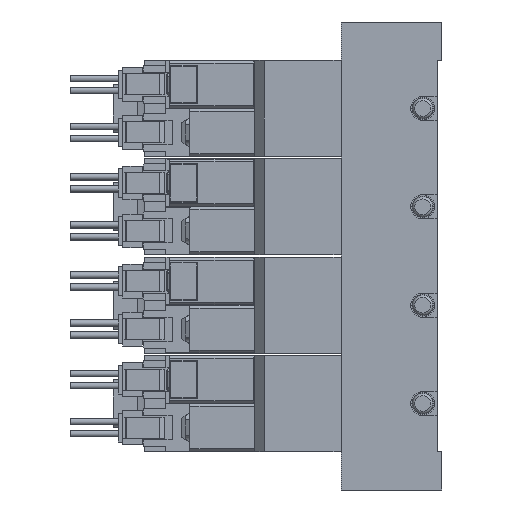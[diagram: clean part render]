
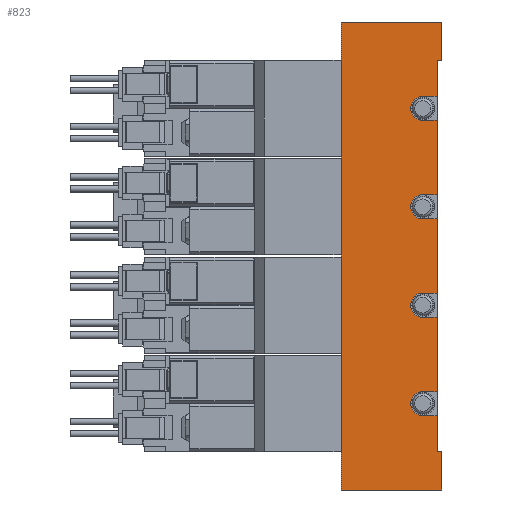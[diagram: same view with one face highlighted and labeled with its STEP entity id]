
A CAD part, left-side view. The second image highlights one B-rep face of the part: STEP entity #823.
In plain terms, the highlighted planar face has unit normal (-1, 0, 0) as drawn and (1, 0, 0) by its records, which use the part's own axes.
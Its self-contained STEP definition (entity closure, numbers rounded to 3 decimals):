
#823=ADVANCED_FACE('',(#1739),#1740,.F.);
#1739=FACE_OUTER_BOUND('',#2768,.T.);
#1740=PLANE('',#2769);
#2768=EDGE_LOOP('',(#6106,#6107,#6108,#6109,#6110,#6111,#6112,#6113,#6114,#6115,#6116,#6117,#6118,#6119,#6120,#6121,#6122,#6123,#6124,#6125,#6126,#6127,#6128,#6129));
#2769=AXIS2_PLACEMENT_3D('',#6130,#6131,#6132);
#6106=ORIENTED_EDGE('',*,*,#7580,.T.);
#6107=ORIENTED_EDGE('',*,*,#7581,.T.);
#6108=ORIENTED_EDGE('',*,*,#7582,.F.);
#6109=ORIENTED_EDGE('',*,*,#7583,.F.);
#6110=ORIENTED_EDGE('',*,*,#7559,.T.);
#6111=ORIENTED_EDGE('',*,*,#7584,.T.);
#6112=ORIENTED_EDGE('',*,*,#7585,.T.);
#6113=ORIENTED_EDGE('',*,*,#7586,.F.);
#6114=ORIENTED_EDGE('',*,*,#7587,.F.);
#6115=ORIENTED_EDGE('',*,*,#7551,.F.);
#6116=ORIENTED_EDGE('',*,*,#7588,.T.);
#6117=ORIENTED_EDGE('',*,*,#7530,.F.);
#6118=ORIENTED_EDGE('',*,*,#7589,.F.);
#6119=ORIENTED_EDGE('',*,*,#7590,.F.);
#6120=ORIENTED_EDGE('',*,*,#7591,.T.);
#6121=ORIENTED_EDGE('',*,*,#7592,.F.);
#6122=ORIENTED_EDGE('',*,*,#7593,.F.);
#6123=ORIENTED_EDGE('',*,*,#7594,.F.);
#6124=ORIENTED_EDGE('',*,*,#7595,.T.);
#6125=ORIENTED_EDGE('',*,*,#7596,.F.);
#6126=ORIENTED_EDGE('',*,*,#7597,.F.);
#6127=ORIENTED_EDGE('',*,*,#7575,.F.);
#6128=ORIENTED_EDGE('',*,*,#7598,.T.);
#6129=ORIENTED_EDGE('',*,*,#7599,.T.);
#6130=CARTESIAN_POINT('',(17.5,1.0,48.75));
#6131=DIRECTION('',(-1.0,0.0,0.0));
#6132=DIRECTION('',(0.0,0.0,1.0));
#7530=EDGE_CURVE('',#9310,#9311,#9312,.T.);
#7551=EDGE_CURVE('',#9352,#9353,#9354,.T.);
#7559=EDGE_CURVE('',#9367,#9368,#9369,.T.);
#7575=EDGE_CURVE('',#9399,#9400,#9401,.T.);
#7580=EDGE_CURVE('',#9407,#9408,#9409,.T.);
#7581=EDGE_CURVE('',#9408,#9410,#9411,.T.);
#7582=EDGE_CURVE('',#9412,#9410,#9413,.T.);
#7583=EDGE_CURVE('',#9367,#9412,#9414,.T.);
#7584=EDGE_CURVE('',#9368,#9415,#9416,.T.);
#7585=EDGE_CURVE('',#9415,#9417,#9418,.T.);
#7586=EDGE_CURVE('',#9419,#9417,#9420,.T.);
#7587=EDGE_CURVE('',#9353,#9419,#9421,.T.);
#7588=EDGE_CURVE('',#9352,#9311,#9422,.T.);
#7589=EDGE_CURVE('',#9423,#9310,#9424,.T.);
#7590=EDGE_CURVE('',#9425,#9423,#9426,.T.);
#7591=EDGE_CURVE('',#9425,#9427,#9428,.T.);
#7592=EDGE_CURVE('',#9429,#9427,#9430,.T.);
#7593=EDGE_CURVE('',#9431,#9429,#9432,.T.);
#7594=EDGE_CURVE('',#9433,#9431,#9434,.T.);
#7595=EDGE_CURVE('',#9433,#9435,#9436,.T.);
#7596=EDGE_CURVE('',#9437,#9435,#9438,.T.);
#7597=EDGE_CURVE('',#9400,#9437,#9439,.T.);
#7598=EDGE_CURVE('',#9399,#9440,#9441,.T.);
#7599=EDGE_CURVE('',#9440,#9407,#9442,.T.);
#9310=VERTEX_POINT('',#12249);
#9311=VERTEX_POINT('',#12250);
#9312=LINE('',#12251,#12252);
#9352=VERTEX_POINT('',#12428);
#9353=VERTEX_POINT('',#12429);
#9354=LINE('',#12430,#12431);
#9367=VERTEX_POINT('',#12448);
#9368=VERTEX_POINT('',#12449);
#9369=LINE('',#12450,#12451);
#9399=VERTEX_POINT('',#12488);
#9400=VERTEX_POINT('',#12489);
#9401=LINE('',#12490,#12491);
#9407=VERTEX_POINT('',#12500);
#9408=VERTEX_POINT('',#12501);
#9409=LINE('',#12502,#12503);
#9410=VERTEX_POINT('',#12504);
#9411=LINE('',#12505,#12506);
#9412=VERTEX_POINT('',#12507);
#9413=LINE('',#12508,#12509);
#9414=LINE('',#12510,#12511);
#9415=VERTEX_POINT('',#12512);
#9416=LINE('',#12513,#12514);
#9417=VERTEX_POINT('',#12515);
#9418=LINE('',#12516,#12517);
#9419=VERTEX_POINT('',#12518);
#9420=LINE('',#12519,#12520);
#9421=CIRCLE('',#12521,2.5);
#9422=LINE('',#12522,#12523);
#9423=VERTEX_POINT('',#12524);
#9424=CIRCLE('',#12525,2.5);
#9425=VERTEX_POINT('',#12526);
#9426=LINE('',#12527,#12528);
#9427=VERTEX_POINT('',#12529);
#9428=LINE('',#12530,#12531);
#9429=VERTEX_POINT('',#12532);
#9430=LINE('',#12533,#12534);
#9431=VERTEX_POINT('',#12535);
#9432=CIRCLE('',#12536,2.5);
#9433=VERTEX_POINT('',#12537);
#9434=LINE('',#12538,#12539);
#9435=VERTEX_POINT('',#12540);
#9436=LINE('',#12541,#12542);
#9437=VERTEX_POINT('',#12543);
#9438=LINE('',#12544,#12545);
#9439=CIRCLE('',#12546,2.5);
#9440=VERTEX_POINT('',#12547);
#9441=LINE('',#12548,#12549);
#9442=LINE('',#12550,#12551);
#12249=CARTESIAN_POINT('',(17.5,4.0,12.75));
#12250=CARTESIAN_POINT('',(17.5,1.0,12.75));
#12251=CARTESIAN_POINT('',(17.5,1.0,12.75));
#12252=VECTOR('',#13907,1.0);
#12428=CARTESIAN_POINT('',(17.5,1.0,28.25));
#12429=CARTESIAN_POINT('',(17.5,4.0,28.25));
#12430=CARTESIAN_POINT('',(17.5,1.0,28.25));
#12431=VECTOR('',#13951,1.0);
#12448=CARTESIAN_POINT('',(17.5,0.0,48.75));
#12449=CARTESIAN_POINT('',(17.5,0.0,40.75));
#12450=CARTESIAN_POINT('',(17.5,0.0,48.75));
#12451=VECTOR('',#13965,1.0);
#12488=CARTESIAN_POINT('',(17.5,1.0,-33.25));
#12489=CARTESIAN_POINT('',(17.5,4.0,-33.25));
#12490=CARTESIAN_POINT('',(17.5,1.0,-33.25));
#12491=VECTOR('',#13997,1.0);
#12500=CARTESIAN_POINT('',(17.5,0.0,-40.75));
#12501=CARTESIAN_POINT('',(17.5,0.0,-48.75));
#12502=CARTESIAN_POINT('',(17.5,0.0,-40.75));
#12503=VECTOR('',#14004,1.0);
#12504=CARTESIAN_POINT('',(17.5,21.0,-48.75));
#12505=CARTESIAN_POINT('',(17.5,1.0,-48.75));
#12506=VECTOR('',#14005,1.0);
#12507=CARTESIAN_POINT('',(17.5,21.0,48.75));
#12508=CARTESIAN_POINT('',(17.5,21.0,48.75));
#12509=VECTOR('',#14006,1.0);
#12510=CARTESIAN_POINT('',(17.5,1.0,48.75));
#12511=VECTOR('',#14007,1.0);
#12512=CARTESIAN_POINT('',(17.5,1.0,40.75));
#12513=CARTESIAN_POINT('',(17.5,0.0,40.75));
#12514=VECTOR('',#14008,1.0);
#12515=CARTESIAN_POINT('',(17.5,1.0,33.25));
#12516=CARTESIAN_POINT('',(17.5,1.0,48.75));
#12517=VECTOR('',#14009,1.0);
#12518=CARTESIAN_POINT('',(17.5,4.0,33.25));
#12519=CARTESIAN_POINT('',(17.5,1.0,33.25));
#12520=VECTOR('',#14010,1.0);
#12521=AXIS2_PLACEMENT_3D('',#14011,#14012,#14013);
#12522=CARTESIAN_POINT('',(17.5,1.0,48.75));
#12523=VECTOR('',#14014,1.0);
#12524=CARTESIAN_POINT('',(17.5,4.0,7.75));
#12525=AXIS2_PLACEMENT_3D('',#14015,#14016,#14017);
#12526=CARTESIAN_POINT('',(17.5,1.0,7.75));
#12527=CARTESIAN_POINT('',(17.5,1.0,7.75));
#12528=VECTOR('',#14018,1.0);
#12529=CARTESIAN_POINT('',(17.5,1.0,-7.75));
#12530=CARTESIAN_POINT('',(17.5,1.0,48.75));
#12531=VECTOR('',#14019,1.0);
#12532=CARTESIAN_POINT('',(17.5,4.0,-7.75));
#12533=CARTESIAN_POINT('',(17.5,1.0,-7.75));
#12534=VECTOR('',#14020,1.0);
#12535=CARTESIAN_POINT('',(17.5,4.0,-12.75));
#12536=AXIS2_PLACEMENT_3D('',#14021,#14022,#14023);
#12537=CARTESIAN_POINT('',(17.5,1.0,-12.75));
#12538=CARTESIAN_POINT('',(17.5,1.0,-12.75));
#12539=VECTOR('',#14024,1.0);
#12540=CARTESIAN_POINT('',(17.5,1.0,-28.25));
#12541=CARTESIAN_POINT('',(17.5,1.0,48.75));
#12542=VECTOR('',#14025,1.0);
#12543=CARTESIAN_POINT('',(17.5,4.0,-28.25));
#12544=CARTESIAN_POINT('',(17.5,1.0,-28.25));
#12545=VECTOR('',#14026,1.0);
#12546=AXIS2_PLACEMENT_3D('',#14027,#14028,#14029);
#12547=CARTESIAN_POINT('',(17.5,1.0,-40.75));
#12548=CARTESIAN_POINT('',(17.5,1.0,48.75));
#12549=VECTOR('',#14030,1.0);
#12550=CARTESIAN_POINT('',(17.5,4.0,-40.75));
#12551=VECTOR('',#14031,1.0);
#13907=DIRECTION('',(0.0,-1.0,0.0));
#13951=DIRECTION('',(0.0,1.0,0.0));
#13965=DIRECTION('',(0.0,0.0,-1.0));
#13997=DIRECTION('',(0.0,1.0,0.0));
#14004=DIRECTION('',(0.0,0.0,-1.0));
#14005=DIRECTION('',(0.0,1.0,0.0));
#14006=DIRECTION('',(0.0,0.0,-1.0));
#14007=DIRECTION('',(0.0,1.0,0.0));
#14008=DIRECTION('',(0.0,1.0,0.0));
#14009=DIRECTION('',(0.0,0.0,-1.0));
#14010=DIRECTION('',(0.0,-1.0,0.0));
#14011=CARTESIAN_POINT('',(17.5,4.0,30.75));
#14012=DIRECTION('',(1.0,0.0,-0.0));
#14013=DIRECTION('',(0.0,0.0,1.0));
#14014=DIRECTION('',(0.0,0.0,-1.0));
#14015=CARTESIAN_POINT('',(17.5,4.0,10.25));
#14016=DIRECTION('',(1.0,0.0,-0.0));
#14017=DIRECTION('',(0.0,0.0,1.0));
#14018=DIRECTION('',(0.0,1.0,0.0));
#14019=DIRECTION('',(0.0,0.0,-1.0));
#14020=DIRECTION('',(0.0,-1.0,0.0));
#14021=CARTESIAN_POINT('',(17.5,4.0,-10.25));
#14022=DIRECTION('',(1.0,0.0,-0.0));
#14023=DIRECTION('',(0.0,0.0,1.0));
#14024=DIRECTION('',(0.0,1.0,0.0));
#14025=DIRECTION('',(0.0,0.0,-1.0));
#14026=DIRECTION('',(0.0,-1.0,0.0));
#14027=CARTESIAN_POINT('',(17.5,4.0,-30.75));
#14028=DIRECTION('',(1.0,0.0,-0.0));
#14029=DIRECTION('',(0.0,0.0,1.0));
#14030=DIRECTION('',(0.0,0.0,-1.0));
#14031=DIRECTION('',(0.0,-1.0,0.0));
